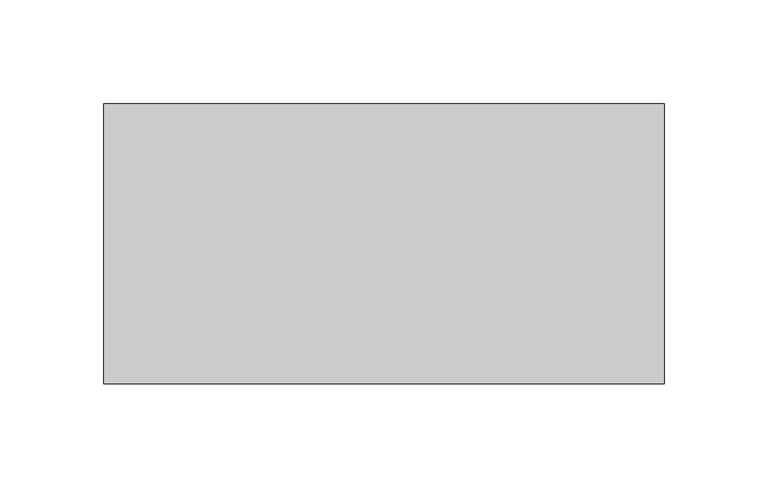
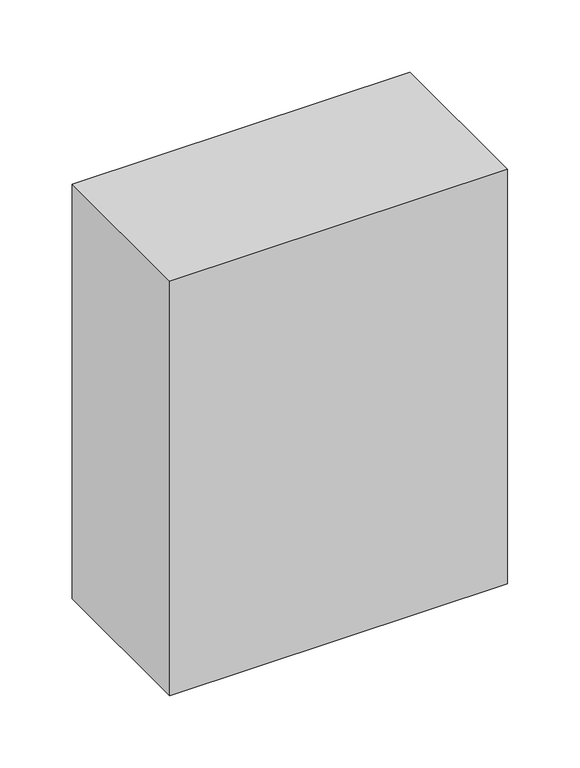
"""IFC4 building model written with IfcOpenShell, lengths in millimetres: flow terminal geometry, Portatoalla doblada Jofel AH35000 : Portatoalla doblada Jofel AH35000.rfa."""

from ifc_helpers import new_model, si_unit, origin, origin_with_axes, place, context, project, spatial, polyline, outline, extrude, source, transform, mapped, element, save


def flow_terminal_3ee3ee5e(model_context):
    return source(origin(), model_context, "Body", "SweptSolid", [
        extrude(outline(polyline([(260.0, 75.0), (-10.0, 75.0), (-10.0, 210.0), (260.0, 210.0), (260.0, 75.0)])), origin_with_axes(), (0.0, 0.0, 1.0), 350.0),
    ])


if __name__ == "__main__":
    model = new_model("IFC4")
    model_context = context("Model", 3, world=origin())
    ifc_project = project(units=[si_unit("LENGTHUNIT", "METRE", prefix="MILLI")], contexts=[model_context])
    site = spatial("IfcSite", under=ifc_project)
    building = spatial("IfcBuilding", under=site)
    placement = place(None, origin())
    flow_terminal_shape = flow_terminal_3ee3ee5e(model_context)
    element("IfcFlowTerminal", 1, ObjectType="Portatoalla doblada Jofel AH35000 : Portatoalla doblada Jofel AH35000.rfa", at=placement, inside=building, context=model_context, shape_type="MappedRepresentation", body=[
        mapped(flow_terminal_shape, transform((0.0, 0.0, 0.0), x_axis=(1.0, 0.0, 0.0), y_axis=(0.0, 1.0, 0.0), z_axis=(0.0, 0.0, 1.0))),
    ])
    save(model, "model.ifc")
